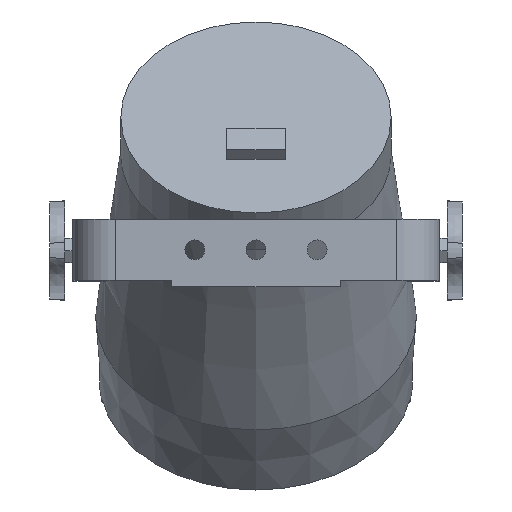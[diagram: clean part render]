
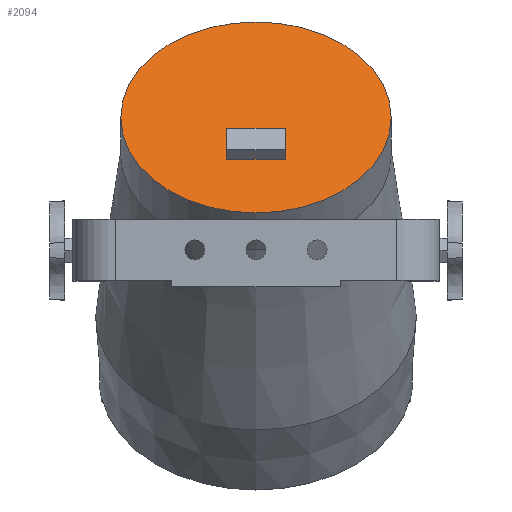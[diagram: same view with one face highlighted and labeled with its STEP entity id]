
A CAD part, top view. The second image highlights one B-rep face of the part: STEP entity #2094.
In plain terms, the highlighted planar face has unit normal (0, 0.707, 0.707) as drawn and (0, 1, 0) by its records, which use the part's own axes.
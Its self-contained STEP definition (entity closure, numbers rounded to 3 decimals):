
#104=FACE_BOUND('',#416,.T.);
#178=PLANE('',#2310);
#288=FACE_OUTER_BOUND('',#415,.T.);
#415=EDGE_LOOP('',(#1914,#1915));
#416=EDGE_LOOP('',(#1916,#1917,#1918,#1919));
#587=LINE('',#3552,#769);
#591=LINE('',#3560,#773);
#594=LINE('',#3566,#776);
#597=LINE('',#3571,#779);
#769=VECTOR('',#2823,10.);
#773=VECTOR('',#2829,10.);
#776=VECTOR('',#2834,10.);
#779=VECTOR('',#2839,10.);
#860=CIRCLE('',#2311,88.472);
#861=CIRCLE('',#2312,88.472);
#1044=VERTEX_POINT('',#3550);
#1045=VERTEX_POINT('',#3551);
#1048=VERTEX_POINT('',#3559);
#1050=VERTEX_POINT('',#3565);
#1063=VERTEX_POINT('',#3744);
#1064=VERTEX_POINT('',#3745);
#1329=EDGE_CURVE('',#1044,#1045,#587,.T.);
#1333=EDGE_CURVE('',#1045,#1048,#591,.T.);
#1336=EDGE_CURVE('',#1048,#1050,#594,.T.);
#1339=EDGE_CURVE('',#1050,#1044,#597,.T.);
#1356=EDGE_CURVE('',#1063,#1064,#860,.T.);
#1357=EDGE_CURVE('',#1064,#1063,#861,.T.);
#1914=ORIENTED_EDGE('',*,*,#1356,.T.);
#1915=ORIENTED_EDGE('',*,*,#1357,.T.);
#1916=ORIENTED_EDGE('',*,*,#1329,.T.);
#1917=ORIENTED_EDGE('',*,*,#1333,.T.);
#1918=ORIENTED_EDGE('',*,*,#1336,.T.);
#1919=ORIENTED_EDGE('',*,*,#1339,.T.);
#2094=ADVANCED_FACE('',(#288,#104),#178,.T.);
#2310=AXIS2_PLACEMENT_3D('',#3743,#2875,#2876);
#2311=AXIS2_PLACEMENT_3D('',#3746,#2877,#2878);
#2312=AXIS2_PLACEMENT_3D('',#3747,#2879,#2880);
#2823=DIRECTION('',(0.,0.,-1.));
#2829=DIRECTION('',(1.,0.,0.));
#2834=DIRECTION('',(0.,0.,1.));
#2839=DIRECTION('',(-1.,0.,0.));
#2875=DIRECTION('center_axis',(0.,1.,0.));
#2876=DIRECTION('ref_axis',(0.,0.,1.));
#2877=DIRECTION('center_axis',(0.,1.,0.));
#2878=DIRECTION('ref_axis',(1.,0.,0.));
#2879=DIRECTION('center_axis',(0.,1.,0.));
#2880=DIRECTION('ref_axis',(1.,0.,0.));
#3550=CARTESIAN_POINT('',(-183.4,250.15,-66.32));
#3551=CARTESIAN_POINT('',(-183.4,250.15,-86.32));
#3552=CARTESIAN_POINT('',(-183.4,250.15,-95.636));
#3559=CARTESIAN_POINT('',(-145.4,250.15,-86.32));
#3560=CARTESIAN_POINT('',(-154.9,250.15,-86.32));
#3565=CARTESIAN_POINT('',(-145.4,250.15,-66.32));
#3566=CARTESIAN_POINT('',(-145.4,250.15,-85.636));
#3571=CARTESIAN_POINT('',(-173.9,250.15,-66.32));
#3743=CARTESIAN_POINT('Origin',(-164.4,250.15,-104.951));
#3744=CARTESIAN_POINT('',(-164.4,250.15,-16.479));
#3745=CARTESIAN_POINT('',(-164.4,250.15,-193.423));
#3746=CARTESIAN_POINT('Origin',(-164.4,250.15,-104.951));
#3747=CARTESIAN_POINT('Origin',(-164.4,250.15,-104.951));
